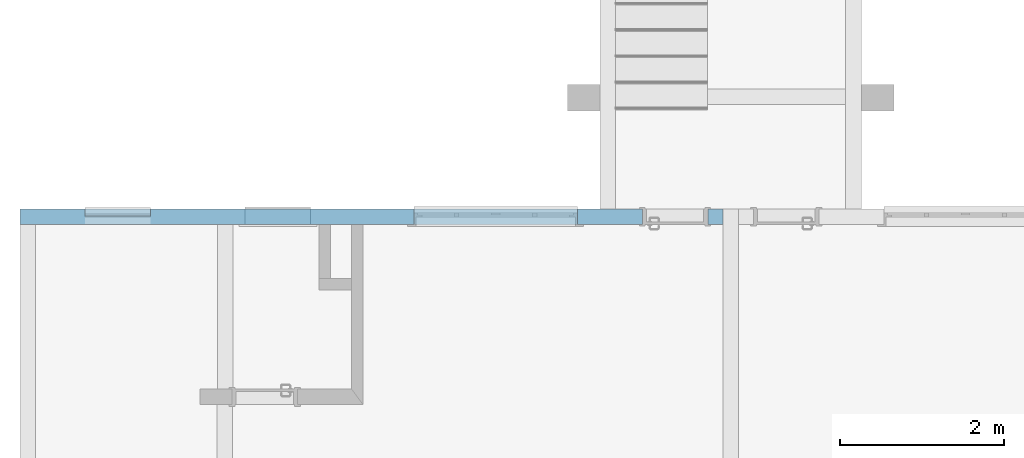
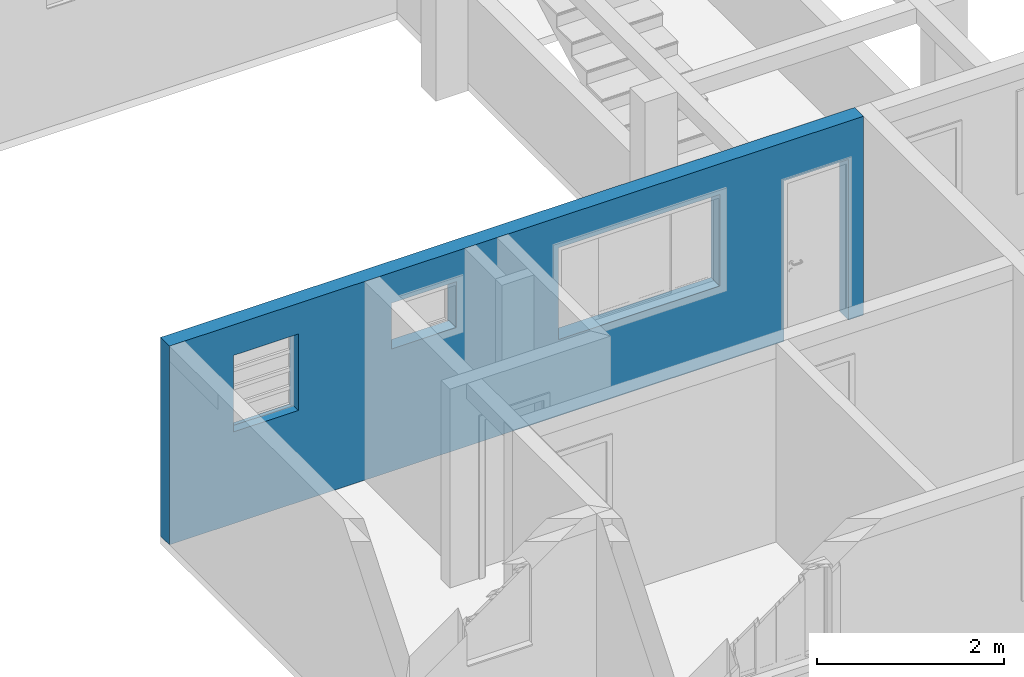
# One storey, part 9 of 43: 1 wall, 4 openings.
"""IFC2X3 building model written with IfcOpenShell, lengths in millimetres."""

import ifcopenshell
import ifcopenshell.guid

model = None  # the IFC model being written
_history = None  # IfcOwnerHistory: only IFC2X3 demands one
_inside = {}  # id of a spatial element -> (the spatial element, [elements in it])
_under = {}  # id of a project, library or spatial element -> (it, [spatial elements below it])
_declared = {}  # id of a project -> (the project, [libraries it declares])
_typed = {}  # id of a type object -> (the type object, [elements of that type])
_made_of = {}  # id of a material, layer set ... -> (it, [elements and type objects made of it])


def new_model(schema):
    """Start an empty IFC model of exactly this schema.

    Asked for "IFC4X3", IfcOpenShell would pick the latest addendum, in which some entities
    have other attributes; the version numbers below select the first issue.
    IFC2X3 requires an IfcOwnerHistory on every rooted entity: one is made here for all.
    """
    global model, _history
    if schema == "IFC4X3":
        model = ifcopenshell.file(schema_version=(4, 3, 0, 0))
    else:
        model = ifcopenshell.file(schema=schema)
    _inside.clear()
    _under.clear()
    _declared.clear()
    _typed.clear()
    _made_of.clear()
    _history = None
    if model.schema == "IFC2X3":
        org = make("IfcOrganization", Name="unknown")
        user = make(
            "IfcPersonAndOrganization",
            ThePerson=make("IfcPerson", FamilyName="unknown"),
            TheOrganization=org,
        )
        app = make(
            "IfcApplication",
            ApplicationDeveloper=org,
            Version="unknown",
            ApplicationFullName="unknown",
            ApplicationIdentifier="unknown",
        )
        _history = make(
            "IfcOwnerHistory",
            OwningUser=user,
            OwningApplication=app,
            ChangeAction="ADDED",
            CreationDate=0,
        )
    return model


def make(cls, **values):
    """One entity of the class cls with the attributes given. An attribute that is None is left unset."""
    return model.create_entity(
        cls, **{name: value for name, value in values.items() if value is not None}
    )


def entity(cls, *values):
    """Any entity or typed value of the class cls, its attributes in the order of the schema. None: left unset."""
    e = model.create_entity(cls)
    for i, value in enumerate(values):
        if value is not None:
            e[i] = value
    return e


def rooted(cls, **values):
    """An entity with a GlobalId (a new one), such as an element, a storey or a relation."""
    return make(cls, GlobalId=ifcopenshell.guid.new(), OwnerHistory=_history, **values)


def si_unit(unit_type, name, prefix=None):
    """IfcSIUnit, for example si_unit("LENGTHUNIT", "METRE", prefix="MILLI")."""
    return make("IfcSIUnit", UnitType=unit_type, Prefix=prefix, Name=name)


def converted_unit(unit_type, name, factor, base, dimensions=None, offset=None):
    """IfcConversionBasedUnit, such as the inch: factor (a typed value) times the base unit."""
    return make(
        "IfcConversionBasedUnit"
        if offset is None
        else "IfcConversionBasedUnitWithOffset",
        ConversionOffset=offset,
        Dimensions=None
        if dimensions is None
        else entity("IfcDimensionalExponents", *dimensions),
        UnitType=unit_type,
        Name=name,
        ConversionFactor=make(
            "IfcMeasureWithUnit", ValueComponent=factor, UnitComponent=base
        ),
    )


def derived_unit(unit_type, elements):
    """IfcDerivedUnit: a product of units, each with its exponent."""
    return make(
        "IfcDerivedUnit",
        Elements=[
            make("IfcDerivedUnitElement", Unit=unit, Exponent=power)
            for unit, power in elements
        ],
        UnitType=unit_type,
    )


def money_unit(currency):
    """IfcMonetaryUnit."""
    return make("IfcMonetaryUnit", Currency=currency)


def assignment(units):
    """IfcUnitAssignment: the units of a project."""
    return None if units is None else make("IfcUnitAssignment", Units=units)


def point(xyz):
    """IfcCartesianPoint."""
    return None if xyz is None else make("IfcCartesianPoint", Coordinates=xyz)


def direction(xyz):
    """IfcDirection."""
    return None if xyz is None else make("IfcDirection", DirectionRatios=xyz)


def frame(location, z_axis=None, x_axis=None):
    """IfcAxis2Placement3D, a coordinate frame: its origin and axes. An axis left out is left unset."""
    return make(
        "IfcAxis2Placement3D",
        Location=point(location),
        Axis=direction(z_axis),
        RefDirection=direction(x_axis),
    )


def frame_2d(location, x_axis=None):
    """IfcAxis2Placement2D, a coordinate frame in the plane: its origin and x axis."""
    return make(
        "IfcAxis2Placement2D", Location=point(location), RefDirection=direction(x_axis)
    )


def origin_with_axes():
    """The frame at (0, 0, 0) with the z axis (0, 0, 1) and the x axis (1, 0, 0) written out."""
    return frame((0.0, 0.0, 0.0), z_axis=(0.0, 0.0, 1.0), x_axis=(1.0, 0.0, 0.0))


def origin_2d_with_axis():
    """The frame at (0, 0) in the plane with the x axis (1, 0) written out."""
    return frame_2d((0.0, 0.0), x_axis=(1.0, 0.0))


def place(relative_to, where):
    """IfcLocalPlacement: puts the frame where relative to a parent placement (None: the world)."""
    return make(
        "IfcLocalPlacement", PlacementRelTo=relative_to, RelativePlacement=where
    )


def context(
    kind, dimensions, precision=None, world=None, true_north=None, identifier=None
):
    """IfcGeometricRepresentationContext, for example the 3D "Model" context."""
    return make(
        "IfcGeometricRepresentationContext",
        ContextIdentifier=identifier,
        ContextType=kind,
        CoordinateSpaceDimension=dimensions,
        Precision=precision,
        WorldCoordinateSystem=world,
        TrueNorth=true_north,
    )


def subcontext(parent, identifier, kind, view, scale=None):
    """IfcGeometricRepresentationSubContext, for example "Body" below "Model"."""
    return make(
        "IfcGeometricRepresentationSubContext",
        ContextIdentifier=identifier,
        ContextType=kind,
        ParentContext=parent,
        TargetScale=scale,
        TargetView=view,
    )


def project(units=None, contexts=None):
    """IfcProject with its units and contexts."""
    return rooted(
        "IfcProject",
        Name="project",
        RepresentationContexts=contexts,
        UnitsInContext=assignment(units),
    )


def spatial(cls, under=None, at=None, **own):
    """A site, building, storey or space (cls), placed at a placement, below another one or the project."""
    s = rooted(cls, ObjectPlacement=at, **own)
    if under is not None:
        _under.setdefault(under.id(), (under, []))[1].append(s)
    return s


def polyline(points):
    """IfcPolyline through the points."""
    return make("IfcPolyline", Points=[point(p) for p in points])


def profile(cls, at=None, kind="AREA", **sizes):
    """A parametric profile (cls). Its sizes go by their IFC names, for example OverallWidth=200.0."""
    return make(cls, ProfileType=kind, Position=at, **sizes)


def rectangle(**sizes):
    """IfcRectangleProfileDef."""
    return profile("IfcRectangleProfileDef", **sizes)


def outline(outer, holes=None, kind="AREA"):
    """IfcArbitraryClosedProfileDef: a profile drawn as a closed curve; with holes, ...WithVoids."""
    if holes is None:
        return make("IfcArbitraryClosedProfileDef", ProfileType=kind, OuterCurve=outer)
    return make(
        "IfcArbitraryProfileDefWithVoids",
        ProfileType=kind,
        OuterCurve=outer,
        InnerCurves=holes,
    )


def extrude(swept, where, along, depth):
    """IfcExtrudedAreaSolid: the profile swept, set in the frame where, extruded along a direction by depth."""
    return make(
        "IfcExtrudedAreaSolid",
        SweptArea=swept,
        Position=where,
        ExtrudedDirection=direction(along),
        Depth=depth,
    )


def shape(context_of_items, identifier, shape_type, items):
    """IfcShapeRepresentation: the items that make up one representation, for example the "Body"."""
    return make(
        "IfcShapeRepresentation",
        ContextOfItems=context_of_items,
        RepresentationIdentifier=identifier,
        RepresentationType=shape_type,
        Items=items,
    )


def material(Name=None, Category=None):
    """IfcMaterial."""
    return make("IfcMaterial", Name=Name, Category=Category)


def layer(
    of_material, thickness, ventilated=None, Name=None, Category=None, Priority=None
):
    """IfcMaterialLayer: one layer of a wall or slab, of a material (None: an air gap)."""
    return make(
        "IfcMaterialLayer",
        Material=of_material,
        LayerThickness=thickness,
        IsVentilated=ventilated,
        Name=Name,
        Category=Category,
        Priority=Priority,
    )


def layer_set(layers, Name=None):
    """IfcMaterialLayerSet."""
    return make("IfcMaterialLayerSet", MaterialLayers=layers, LayerSetName=Name)


def layer_usage(for_layer_set, set_direction, sense, offset, extent=None):
    """IfcMaterialLayerSetUsage: how a layer set lies in its element."""
    return make(
        "IfcMaterialLayerSetUsage",
        ForLayerSet=for_layer_set,
        LayerSetDirection=set_direction,
        DirectionSense=sense,
        OffsetFromReferenceLine=offset,
        ReferenceExtent=extent,
    )


def made_of(thing, what):
    """Note that an element or type object is made of a material, layer set ...; save() writes the relation."""
    if what is not None:
        _made_of.setdefault(what.id(), (what, []))[1].append(thing)
    return thing


def type_object(cls, material=None, **own):
    """A type object (cls), such as IfcWallType, which elements share."""
    return made_of(rooted(cls, **own), material)


def element(
    cls,
    number,
    at=None,
    inside=None,
    cuts=None,
    type_object=None,
    material=None,
    context=None,
    identifier="Body",
    shape_type=None,
    held_by="IfcProductDefinitionShape",
    body=None,
    shapes=None,
    **own,
):
    """One element of the class cls, such as IfcWall. Its Tag is "e" and its number.

    at: its placement. inside: the storey or other place that contains it. cuts: it is an
    opening in that element (IfcRelVoidsElement). A single representation is given by context,
    identifier, shape_type and body (its items); several are given by shapes. held_by: the class
    of the entity that holds the representations. save() writes the other relations.
    """
    e = rooted(cls, Tag="e%d" % number, ObjectPlacement=at, **own)
    if body is not None:
        shapes = [shape(context, identifier, shape_type, body)]
    if shapes is not None:
        e.Representation = make(held_by, Representations=shapes)
    if inside is not None:
        _inside.setdefault(inside.id(), (inside, []))[1].append(e)
    if cuts is not None:
        rooted(
            "IfcRelVoidsElement", RelatingBuildingElement=cuts, RelatedOpeningElement=e
        )
    if type_object is not None:
        _typed.setdefault(type_object.id(), (type_object, []))[1].append(e)
    return made_of(e, material)


def aggregate(whole, parts):
    """IfcRelAggregates: a whole, such as a stair, and the parts it consists of."""
    return rooted("IfcRelAggregates", RelatingObject=whole, RelatedObjects=parts)


def save(model, path):
    """Write the relations noted so far, then the file.

    IfcRelAggregates (storeys below a building ...), IfcRelContainedInSpatialStructure (elements
    in a storey), IfcRelDefinesByType, IfcRelAssociatesMaterial and IfcRelDeclares: one each for
    every whole, place, type object, material and project.
    """
    for whole, parts in _under.values():
        aggregate(whole, parts)
    for where, things in _inside.values():
        rooted(
            "IfcRelContainedInSpatialStructure",
            RelatedElements=things,
            RelatingStructure=where,
        )
    for kind, things in _typed.values():
        rooted("IfcRelDefinesByType", RelatedObjects=things, RelatingType=kind)
    for what, things in _made_of.values():
        rooted("IfcRelAssociatesMaterial", RelatedObjects=things, RelatingMaterial=what)
    for by, libraries in _declared.values():
        rooted("IfcRelDeclares", RelatingContext=by, RelatedDefinitions=libraries)
    model.write(path)


model = new_model("IFC2X3")

# Units and contexts
model_context = context("Model", 3, precision=0.01, world=origin_with_axes(), true_north=direction((0.0, 1.0)))
body_context = subcontext(model_context, "Body", "Model", "MODEL_VIEW")
ifc_project = project(units=[si_unit("LENGTHUNIT", "METRE", prefix="MILLI"), si_unit("AREAUNIT", "SQUARE_METRE"), si_unit("VOLUMEUNIT", "CUBIC_METRE"), converted_unit("PLANEANGLEUNIT", "DEGREE", entity("IfcPlaneAngleMeasure", 0.0174532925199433), si_unit("PLANEANGLEUNIT", "RADIAN"), dimensions=[0, 0, 0, 0, 0, 0, 0]), money_unit("USD"), converted_unit("TIMEUNIT", "Year", entity("IfcTimeMeasure", 31557600.0), si_unit("TIMEUNIT", "SECOND"), dimensions=[0, 0, 1, 0, 0, 0, 0]), si_unit("MASSUNIT", "GRAM", prefix="KILO"), si_unit("THERMODYNAMICTEMPERATUREUNIT", "DEGREE_CELSIUS"), si_unit("LUMINOUSINTENSITYUNIT", "LUMEN"), si_unit("ENERGYUNIT", "JOULE", prefix="MEGA"), derived_unit("THERMALCONDUCTANCEUNIT", [(si_unit("POWERUNIT", "WATT"), 1), (si_unit("LENGTHUNIT", "METRE"), -1), (si_unit("THERMODYNAMICTEMPERATUREUNIT", "KELVIN"), -1)]), derived_unit("SPECIFICHEATCAPACITYUNIT", [(si_unit("ENERGYUNIT", "JOULE"), 1), (si_unit("MASSUNIT", "GRAM", prefix="KILO"), -1), (si_unit("THERMODYNAMICTEMPERATUREUNIT", "KELVIN"), -1)]), derived_unit("MASSDENSITYUNIT", [(si_unit("MASSUNIT", "GRAM", prefix="KILO"), 1), (si_unit("VOLUMEUNIT", "CUBIC_METRE"), -1)])], contexts=[model_context])

# Site, building, storey
site_placement = place(None, origin_with_axes())
site = spatial("IfcSite", under=ifc_project, at=site_placement, Name="Local", CompositionType="ELEMENT")
building_placement = place(site_placement, origin_with_axes())
building = spatial("IfcBuilding", under=site, at=building_placement, Name="Construção", CompositionType="ELEMENT")
storey_placement = place(building_placement, origin_with_axes())
storey = spatial("IfcBuildingStorey", under=building, at=storey_placement, Name="Pavimento Tipo", CompositionType="ELEMENT", Elevation=0.0)

# Wall, openings
ifc_material = material(Name="Concreto - Estrutural")
ifc_layer = layer(ifc_material, 190.0, ventilated="UNKNOWN")
ifc_layer_set = layer_set([ifc_layer], Name="Concreto - Estrutural 190")
ifc_layer_usage = layer_usage(ifc_layer_set, "AXIS2", "POSITIVE", 0.0)
wall_type = type_object("IfcWallType", Name="Concreto - Estrutural 190", PredefinedType="NOTDEFINED")
wall_placement = place(storey_placement, frame((55117.434598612, -1757.538479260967, 0.0), z_axis=(0.0, 0.0, 1.0), x_axis=(1.0, 0.0, 0.0)))
wall = element("IfcWallStandardCase", 1, at=wall_placement, inside=storey, type_object=wall_type, material=ifc_layer_usage, Name="Apartamento 3 - Parede-001", context=body_context, shape_type="SweptSolid", body=[
    extrude(outline(polyline([(0.0, 0.0), (8584.765133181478, 0.0), (8584.765133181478, 189.9999999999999), (0.0, 189.9999999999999), (0.0, 0.0)])), origin_with_axes(), (0.0, 0.0, 1.0), 2600.0),
])
opening_1_placement = place(wall_placement, frame((1195.000000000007, 0.0, 1200.0), z_axis=(0.0, 0.0, 1.0), x_axis=(1.0, 0.0, 0.0)))
element("IfcOpeningElement", 2, at=opening_1_placement, cuts=wall, Name="Apartamento 3 - J03", context=body_context, shape_type="SweptSolid", body=[
    extrude(rectangle(XDim=799.9999999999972, YDim=1000.0, at=origin_2d_with_axis()), frame((0.0, 140.0000000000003, 500.0), z_axis=(0.0, -1.0, 0.0), x_axis=(-1.0, 0.0, 0.0)), (0.0, 0.0, 1.0), 330.0),
    extrude(rectangle(XDim=799.9999999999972, YDim=1000.0, at=origin_2d_with_axis()), frame((0.0, 140.0000000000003, 500.0), z_axis=(0.0, 1.0, 0.0), x_axis=(-1.0, 0.0, 0.0)), (0.0, 0.0, 1.0), 240.0),
    extrude(rectangle(XDim=799.9999999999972, YDim=30.00000000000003, at=origin_2d_with_axis()), frame((0.0, 105.0000000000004, -14.9999999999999), z_axis=(0.0, 1.0, 0.0), x_axis=(-1.0, 0.0, 0.0)), (0.0, 0.0, 1.0), 225.0),
])
opening_2_placement = place(wall_placement, frame((3149.999999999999, 0.0, 1600.0), z_axis=(0.0, 0.0, 1.0), x_axis=(1.0, 0.0, 0.0)))
element("IfcOpeningElement", 3, at=opening_2_placement, cuts=wall, Name="Apartamento 3 - J02", context=body_context, shape_type="SweptSolid", body=[
    extrude(rectangle(XDim=799.9999999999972, YDim=600.0000000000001, at=origin_2d_with_axis()), frame((0.0, -189.9999999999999, 300.0000000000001), z_axis=(0.0, -1.0, 0.0), x_axis=(-1.0, 0.0, 0.0)), (0.0, 0.0, -1.0), 570.0000000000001),
    extrude(rectangle(XDim=799.9999999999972, YDim=30.00000000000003, at=origin_2d_with_axis()), frame((0.0, 155.0000000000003, -14.9999999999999), z_axis=(0.0, 1.0, 0.0), x_axis=(-1.0, 0.0, 0.0)), (0.0, 0.0, 1.0), 225.0),
    extrude(rectangle(XDim=950.0000000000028, YDim=750.0000000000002, at=origin_2d_with_axis()), frame((0.0, 0.0, 300.0000000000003), z_axis=(0.0, -1.0, 0.0), x_axis=(-1.0, 0.0, 0.0)), (0.0, 0.0, 1.0), 190.0),
])
opening_3_placement = place(wall_placement, frame((8000.000000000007, 0.0, 0.0), z_axis=(0.0, 0.0, 1.0), x_axis=(1.0, 0.0, 0.0)))
element("IfcOpeningElement", 4, at=opening_3_placement, cuts=wall, Name="Apartamento 3 - P01", context=body_context, shape_type="SweptSolid", body=[
    extrude(rectangle(XDim=799.9999999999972, YDim=2100.0, at=origin_2d_with_axis()), frame((0.0, -189.9999999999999, 1050.0), z_axis=(0.0, -1.0, 0.0), x_axis=(1.0, 0.0, 0.0)), (0.0, 0.0, -1.0), 570.0000000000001),
    extrude(rectangle(XDim=870.0000000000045, YDim=2135.0, at=origin_2d_with_axis()), frame((0.0, 0.0, 1067.5), z_axis=(0.0, -1.0, 0.0), x_axis=(1.0, 0.0, 0.0)), (0.0, 0.0, 1.0), 190.0),
    extrude(rectangle(XDim=870.0000000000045, YDim=2135.0, at=origin_2d_with_axis()), frame((0.0, 190.0000000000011, 1067.5), z_axis=(0.0, 1.0, 0.0), x_axis=(1.0, 0.0, 0.0)), (0.0, 0.0, 1.0), 190.0),
])
opening_4_placement = place(wall_placement, frame((5810.000000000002, 0.0, 1000.0), z_axis=(0.0, 0.0, 1.0), x_axis=(1.0, 0.0, 0.0)))
element("IfcOpeningElement", 5, at=opening_4_placement, cuts=wall, Name="Apartamento 3 - J01", context=body_context, shape_type="SweptSolid", body=[
    extrude(rectangle(XDim=2000.0, YDim=1200.0, at=origin_2d_with_axis()), frame((0.0, 140.0000000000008, 600.0000000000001), z_axis=(0.0, 1.0, 0.0), x_axis=(1.0, 0.0, 0.0)), (0.0, 0.0, -1.0), 330.0),
    extrude(rectangle(XDim=2000.0, YDim=1200.0, at=origin_2d_with_axis()), frame((0.0, 140.0000000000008, 600.0000000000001), z_axis=(0.0, -1.0, 0.0), x_axis=(1.0, 0.0, 0.0)), (0.0, 0.0, -1.0), 240.0),
    extrude(rectangle(XDim=2150.000000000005, YDim=1350.0, at=origin_2d_with_axis()), frame((0.0, 0.0, 600.0000000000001), z_axis=(0.0, 1.0, 0.0), x_axis=(1.0, 0.0, 0.0)), (0.0, 0.0, -1.0), 240.0),
])

save(model, "model.ifc")
